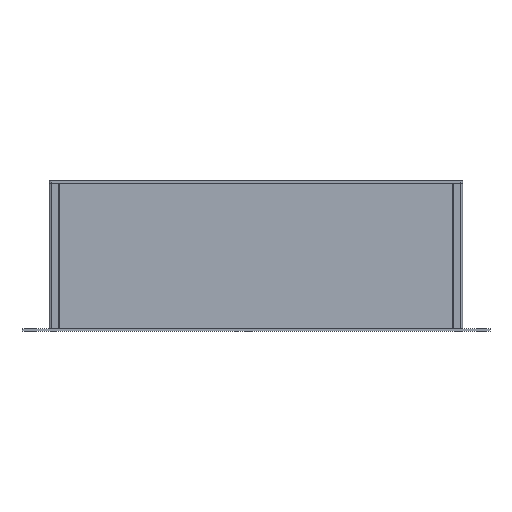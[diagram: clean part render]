
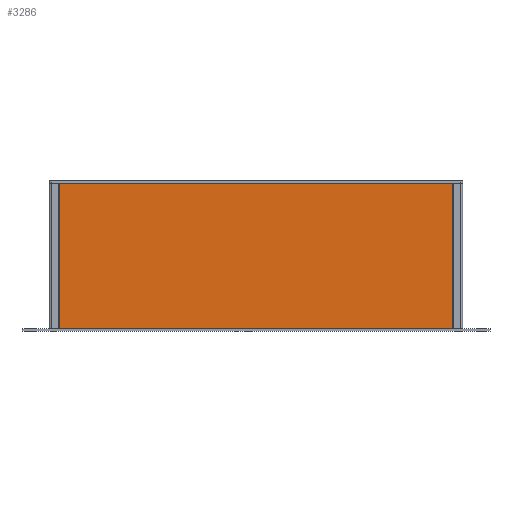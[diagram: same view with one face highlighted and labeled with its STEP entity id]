
A CAD part, top view. The second image highlights one B-rep face of the part: STEP entity #3286.
In plain terms, the highlighted planar face has unit normal (0, 0, 1).
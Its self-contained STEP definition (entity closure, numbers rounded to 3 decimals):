
#230=PLANE('',#3643);
#398=FACE_OUTER_BOUND('',#594,.T.);
#594=EDGE_LOOP('',(#3043,#3044,#3045,#3046));
#910=LINE('',#5476,#1254);
#917=LINE('',#5491,#1261);
#918=LINE('',#5493,#1262);
#919=LINE('',#5494,#1263);
#1254=VECTOR('',#4521,10.);
#1261=VECTOR('',#4534,10.);
#1262=VECTOR('',#4535,10.);
#1263=VECTOR('',#4536,10.);
#1698=VERTEX_POINT('',#5470);
#1700=VERTEX_POINT('',#5474);
#1705=VERTEX_POINT('',#5490);
#1706=VERTEX_POINT('',#5492);
#2150=EDGE_CURVE('',#1698,#1700,#910,.T.);
#2157=EDGE_CURVE('',#1705,#1698,#917,.T.);
#2158=EDGE_CURVE('',#1706,#1700,#918,.T.);
#2159=EDGE_CURVE('',#1705,#1706,#919,.T.);
#3043=ORIENTED_EDGE('',*,*,#2157,.T.);
#3044=ORIENTED_EDGE('',*,*,#2150,.T.);
#3045=ORIENTED_EDGE('',*,*,#2158,.F.);
#3046=ORIENTED_EDGE('',*,*,#2159,.F.);
#3286=ADVANCED_FACE('',(#398),#230,.T.);
#3643=AXIS2_PLACEMENT_3D('',#5489,#4532,#4533);
#4521=DIRECTION('',(0.,1.,0.));
#4532=DIRECTION('center_axis',(0.,0.,1.));
#4533=DIRECTION('ref_axis',(1.,0.,0.));
#4534=DIRECTION('',(1.,0.,0.));
#4535=DIRECTION('',(1.,0.,0.));
#4536=DIRECTION('',(0.,1.,0.));
#5470=CARTESIAN_POINT('',(444.6,0.,-19.3));
#5474=CARTESIAN_POINT('',(444.6,150.,-19.3));
#5476=CARTESIAN_POINT('',(444.6,0.,-19.3));
#5489=CARTESIAN_POINT('Origin',(38.4,0.,-19.3));
#5490=CARTESIAN_POINT('',(38.4,0.,-19.3));
#5491=CARTESIAN_POINT('',(38.4,0.,-19.3));
#5492=CARTESIAN_POINT('',(38.4,150.,-19.3));
#5493=CARTESIAN_POINT('',(38.4,150.,-19.3));
#5494=CARTESIAN_POINT('',(38.4,0.,-19.3));
